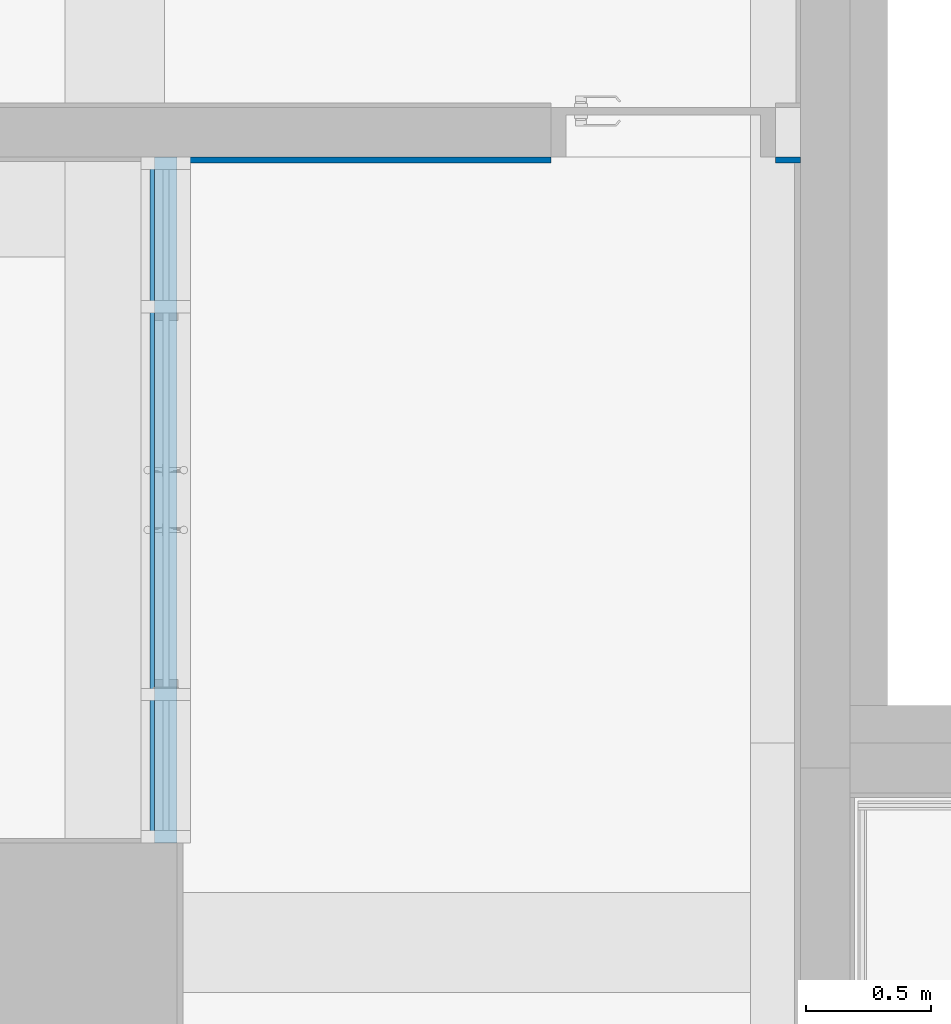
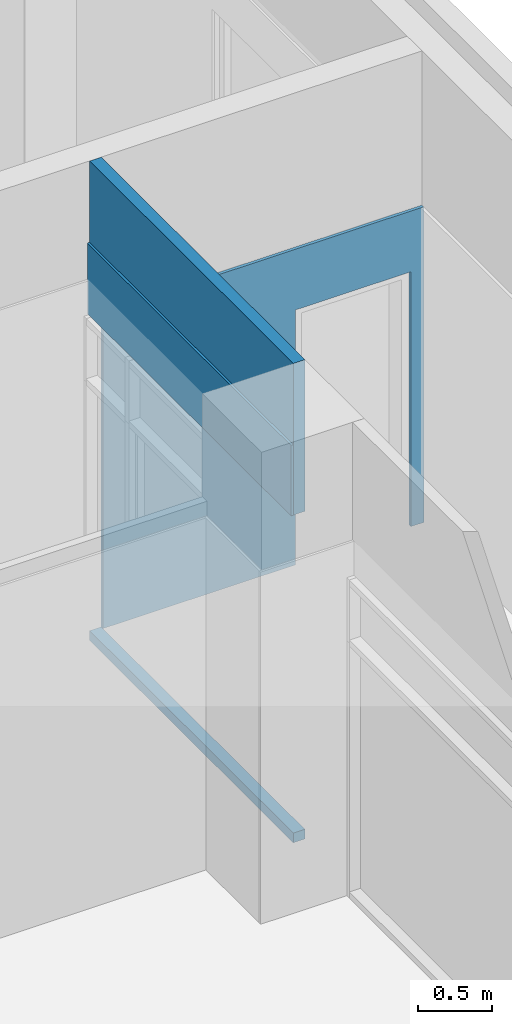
# One storey, part 48 of 76: 3 walls, 5 openings.
"""IFC2X3 building model written with IfcOpenShell, lengths in millimetres."""

from ifc_helpers import new_model, entity, si_unit, converted_unit, derived_unit, direction, frame, frame_2d, origin, place, context, subcontext, project, spatial, polyline, rectangle, extrude, clip, bounded_halfspace, material, layer, layer_set, layer_usage, type_object, element, save


model = new_model("IFC2X3")

# Units and contexts
model_context = context("Model", 3, precision=0.01, world=origin(), true_north=direction((6.123031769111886e-17, 1.0)))
body_context = subcontext(model_context, "Body", "Model", "MODEL_VIEW")
ifc_project = project(units=[si_unit("LENGTHUNIT", "METRE", prefix="MILLI"), si_unit("AREAUNIT", "SQUARE_METRE"), si_unit("VOLUMEUNIT", "CUBIC_METRE"), converted_unit("PLANEANGLEUNIT", "DEGREE", entity("IfcRatioMeasure", 0.017453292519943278), si_unit("PLANEANGLEUNIT", "RADIAN"), dimensions=[0, 0, 0, 0, 0, 0, 0]), si_unit("MASSUNIT", "GRAM", prefix="KILO"), derived_unit("MASSDENSITYUNIT", [(si_unit("MASSUNIT", "GRAM", prefix="KILO"), 1), (si_unit("LENGTHUNIT", "METRE"), -3)]), derived_unit("MOMENTOFINERTIAUNIT", [(si_unit("LENGTHUNIT", "METRE"), 4)]), si_unit("TIMEUNIT", "SECOND"), si_unit("FREQUENCYUNIT", "HERTZ"), si_unit("THERMODYNAMICTEMPERATUREUNIT", "DEGREE_CELSIUS"), derived_unit("THERMALTRANSMITTANCEUNIT", [(si_unit("MASSUNIT", "GRAM", prefix="KILO"), 1), (si_unit("THERMODYNAMICTEMPERATUREUNIT", "KELVIN"), -1), (si_unit("TIMEUNIT", "SECOND"), -3)]), derived_unit("VOLUMETRICFLOWRATEUNIT", [(si_unit("LENGTHUNIT", "METRE"), 3), (si_unit("TIMEUNIT", "SECOND"), -1)]), derived_unit("MASSFLOWRATEUNIT", [(si_unit("MASSUNIT", "GRAM", prefix="KILO"), 1), (si_unit("TIMEUNIT", "SECOND"), -1)]), derived_unit("ROTATIONALFREQUENCYUNIT", [(si_unit("TIMEUNIT", "SECOND"), -1)]), si_unit("ELECTRICCURRENTUNIT", "AMPERE"), si_unit("ELECTRICVOLTAGEUNIT", "VOLT"), si_unit("POWERUNIT", "WATT"), si_unit("FORCEUNIT", "NEWTON", prefix="KILO"), si_unit("ILLUMINANCEUNIT", "LUX"), si_unit("LUMINOUSFLUXUNIT", "LUMEN"), si_unit("LUMINOUSINTENSITYUNIT", "CANDELA"), derived_unit("USERDEFINED", [(si_unit("MASSUNIT", "GRAM", prefix="KILO"), -1), (si_unit("LENGTHUNIT", "METRE"), -2), (si_unit("TIMEUNIT", "SECOND"), 3), (si_unit("LUMINOUSFLUXUNIT", "LUMEN"), 1)]), derived_unit("SOUNDPOWERUNIT", [(si_unit("MASSUNIT", "GRAM", prefix="KILO"), 1), (si_unit("LENGTHUNIT", "METRE"), 2), (si_unit("TIMEUNIT", "SECOND"), -3)]), derived_unit("SOUNDPRESSUREUNIT", [(si_unit("MASSUNIT", "GRAM", prefix="KILO"), 1), (si_unit("LENGTHUNIT", "METRE"), -1), (si_unit("TIMEUNIT", "SECOND"), -2)]), derived_unit("LINEARVELOCITYUNIT", [(si_unit("LENGTHUNIT", "METRE"), 1), (si_unit("TIMEUNIT", "SECOND"), -1)]), si_unit("PRESSUREUNIT", "PASCAL"), derived_unit("USERDEFINED", [(si_unit("LENGTHUNIT", "METRE"), -2), (si_unit("MASSUNIT", "GRAM", prefix="KILO"), 1), (si_unit("TIMEUNIT", "SECOND"), -2)]), derived_unit("LINEARFORCEUNIT", [(si_unit("MASSUNIT", "GRAM", prefix="KILO"), 1), (si_unit("LENGTHUNIT", "METRE"), 1), (si_unit("TIMEUNIT", "SECOND"), -2), (si_unit("LENGTHUNIT", "METRE"), -1)]), derived_unit("PLANARFORCEUNIT", [(si_unit("MASSUNIT", "GRAM", prefix="KILO"), 1), (si_unit("LENGTHUNIT", "METRE"), 1), (si_unit("TIMEUNIT", "SECOND"), -2), (si_unit("LENGTHUNIT", "METRE"), -2)])], contexts=[model_context])

# Site, building, storey
site_placement = place(None, frame((-14167.972527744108, -657.2125860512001, 0.0)))
site = spatial("IfcSite", under=ifc_project, at=site_placement, Name="Default", CompositionType="ELEMENT")
building_placement = place(site_placement, origin())
building = spatial("IfcBuilding", under=site, at=building_placement, Name="Sample Building", CompositionType="ELEMENT")
storey_placement = place(building_placement, frame((0.0, 0.0, 9300.0)))
storey = spatial("IfcBuildingStorey", under=building, at=storey_placement, Name="지상 3층", CompositionType="ELEMENT", Elevation=9300.000000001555)

# Wall, openings
ifc_material_1 = material(Name="KBIMS-시멘트 벽돌")
ifc_layer_1 = layer(ifc_material_1, 90.0)
ifc_layer_set_1 = layer_set([ifc_layer_1], Name="기본 벽:WA211-시멘트벽돌(일반) 벽 (0.5B) 90mm")
ifc_layer_usage_1 = layer_usage(ifc_layer_set_1, "AXIS2", "NEGATIVE", 45.0)
wall_type_1 = type_object("IfcWallType", Name="기본 벽:WA211-시멘트벽돌(일반) 벽 (0.5B) 90mm", PredefinedType="STANDARD", material=ifc_layer_set_1)
wall_1_placement = place(storey_placement, frame((27522.955105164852, 30507.21227524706, 0.0), z_axis=(0.0, 0.0, 1.0), x_axis=(0.0, -1.0, 0.0)))
wall_1 = element("IfcWallStandardCase", 1, at=wall_1_placement, inside=storey, type_object=wall_type_1, material=ifc_layer_usage_1, Name="기본 벽:WA211-시멘트벽돌(일반) 벽 (0.5B) 90mm", ObjectType="기본 벽:WA211-시멘트벽돌(일반) 벽 (0.5B) 90mm", context=body_context, shape_type="Clipping", body=[
    clip(extrude(rectangle(XDim=2749.9999672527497, YDim=90.0000000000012, at=frame_2d((1374.9999836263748, -2.277289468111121e-12), x_axis=(-1.0, 0.0))), origin(), (0.0, 0.0, 1.0), 3950.000000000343), bounded_halfspace(frame((0.0, -45.0, 3950.0), z_axis=(0.0, 0.0, -1.0), x_axis=(0.0, 1.0, 0.0)), True, frame((0.0, -45.0, 3950.0), z_axis=(0.0, 0.0, -1.0), x_axis=(0.0, 1.0, 0.0)), polyline([(0.0, 0.0), (27432.0, -1.2792593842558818e-09), (27432.0, 838199.9900186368), (-1.321097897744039e-09, 838199.9900186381), (0.0, 0.0)]))),
])
opening_1_placement = place(wall_1_placement, origin())
element("IfcOpeningElement", 2, at=opening_1_placement, cuts=wall_1, Name="기본 벽:WA211-시멘트벽돌(일반) 벽 (0.5B) 90mm", ObjectType="Opening", context=body_context, shape_type="SweptSolid", body=[
    extrude(rectangle(XDim=2620.0000000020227, YDim=2749.9999672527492, at=frame_2d((-1.1368683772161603e-12, -2.1600499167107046e-12), x_axis=(1.0, 0.0))), frame((1374.999983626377, -197.40000000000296, 1390.0), z_axis=(0.0, 1.0, 0.0), x_axis=(0.0, 0.0, 1.0)), (0.0, 0.0, 1.0), 394.8000000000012),
])
opening_2_placement = place(wall_1_placement, origin())
element("IfcOpeningElement", 3, at=opening_2_placement, cuts=wall_1, Name="기본 벽:WA211-시멘트벽돌(일반) 벽 (0.5B) 90mm", ObjectType="Opening", context=body_context, shape_type="SweptSolid", body=[
    extrude(rectangle(XDim=2620.0000000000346, YDim=6500.034992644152, at=frame_2d((1.1368683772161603e-12, 0.0), x_axis=(1.0, 0.0))), frame((14200.017154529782, -197.40000000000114, 1390.0), z_axis=(0.0, 1.0, 0.0), x_axis=(0.0, 0.0, 1.0)), (0.0, 0.0, 1.0), 394.8000000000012),
])
opening_3_placement = place(wall_1_placement, origin())
element("IfcOpeningElement", 4, at=opening_3_placement, cuts=wall_1, Name="기본 벽:WA211-시멘트벽돌(일반) 벽 (0.5B) 90mm", ObjectType="Opening", context=body_context, shape_type="SweptSolid", body=[
    extrude(rectangle(XDim=2620.000000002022, YDim=6599.999999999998, at=frame_2d((-5.684341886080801e-13, 0.0), x_axis=(1.0, 0.0))), frame((6849.999967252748, -197.39999999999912, 1390.0), z_axis=(0.0, 1.0, 0.0), x_axis=(0.0, 0.0, 1.0)), (0.0, 0.0, 1.0), 394.8000000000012),
])

# Wall, opening
ifc_material_2 = material(Name="WA611-수성페인트 (내부) 벽 (3회)")
ifc_layer_2 = layer(ifc_material_2, 1.0)
ifc_material_3 = material(Name="WA551-시멘트모르타르 (내부) 벽 18mm")
ifc_layer_3 = layer(ifc_material_3, 16.0)
ifc_material_4 = material(Name="WA555-콘크리트면정리 벽 (내부)")
ifc_layer_4 = layer(ifc_material_4, 1.0)
ifc_layer_set_2 = layer_set([ifc_layer_2, ifc_layer_3, ifc_layer_4], Name="기본 벽:A1-32-06A-콘크리트면정리, 시멘트모르타르(미장용), 수성페인트(내부) (18mm)")
ifc_layer_usage_2 = layer_usage(ifc_layer_set_2, "AXIS2", "NEGATIVE", 9.000000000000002)
wall_type_2 = type_object("IfcWallType", Name="기본 벽:A1-32-06A-콘크리트면정리, 시멘트모르타르(미장용), 수성페인트(내부) (18mm)", PredefinedType="STANDARD", material=ifc_layer_set_2)
wall_2_placement = place(storey_placement, frame((27468.95510516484, 27757.212307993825, 2700.0), z_axis=(0.0, 0.0, 1.0), x_axis=(0.0, 1.0, 0.0)))
wall_2 = element("IfcWallStandardCase", 5, at=wall_2_placement, inside=storey, type_object=wall_type_2, material=ifc_layer_usage_2, Name="기본 벽:A1-32-06A-콘크리트면정리, 시멘트모르타르(미장용), 수성페인트(내부) (18mm)", ObjectType="기본 벽:A1-32-06A-콘크리트면정리, 시멘트모르타르(미장용), 수성페인트(내부) (18mm)", context=body_context, shape_type="SweptSolid", body=[
    extrude(rectangle(XDim=2749.9999672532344, YDim=18.00000000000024, at=frame_2d((1374.9999836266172, -1.3837819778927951e-12), x_axis=(1.0, 0.0))), origin(), (0.0, 0.0, 1.0), 579.9999999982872),
])
opening_4_placement = place(wall_2_placement, origin())
element("IfcOpeningElement", 6, at=opening_4_placement, cuts=wall_2, Name="기본 벽:A1-32-06A-콘크리트면정리, 시멘트모르타르(미장용), 수성페인트(내부) (18mm)", ObjectType="Opening", context=body_context, shape_type="SweptSolid", body=[
    extrude(rectangle(XDim=2620.0000000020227, YDim=2749.9999672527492, at=frame_2d((2.1600499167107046e-12, -1.1368683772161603e-12), x_axis=(0.0, 1.0))), frame((1374.999983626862, -161.40000000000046, -1310.0), z_axis=(0.0, 1.0, 0.0), x_axis=(-1.0, 0.0, 0.0)), (0.0, 0.0, 1.0), 322.80000000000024),
])

ifc_layer_5 = layer(ifc_material_2, 1.0)
ifc_material_5 = material(Name="WA551-시멘트모르타르 (내부) 벽 24mm")
ifc_layer_6 = layer(ifc_material_5, 21.0)
ifc_material_6 = material(Name="WA961-바닥방수 연장")
ifc_layer_7 = layer(ifc_material_6, 1.0)
ifc_layer_8 = layer(ifc_material_4, 1.0)
ifc_layer_set_3 = layer_set([ifc_layer_5, ifc_layer_6, ifc_layer_7, ifc_layer_8], Name="기본 벽:A1-32-07A-콘크리트면정리, 바닥방수연장, 시멘트모르타르(미장용), 수성페인트(내부) (24mm)")
ifc_layer_usage_3 = layer_usage(ifc_layer_set_3, "AXIS2", "NEGATIVE", 12.000000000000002)
wall_type_3 = type_object("IfcWallType", Name="기본 벽:A1-32-07A-콘크리트면정리, 바닥방수연장, 시멘트모르타르(미장용), 수성페인트(내부) (24mm)", PredefinedType="STANDARD", material=ifc_layer_set_3)
wall_3_placement = place(storey_placement, frame((30067.96376153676, 30495.212275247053, 80.0), z_axis=(0.0, 0.0, 1.0), x_axis=(-1.0, 0.0, 0.0)))
wall_3 = element("IfcWallStandardCase", 7, at=wall_3_placement, inside=storey, type_object=wall_type_3, material=ifc_layer_usage_3, Name="기본 벽:A1-32-07A-콘크리트면정리, 바닥방수연장, 시멘트모르타르(미장용), 수성페인트(내부) (24mm)", ObjectType="기본 벽:A1-32-07A-콘크리트면정리, 바닥방수연장, 시멘트모르타르(미장용), 수성페인트(내부) (24mm)", context=body_context, shape_type="SweptSolid", body=[
    extrude(rectangle(XDim=2500.0086563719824, YDim=23.999999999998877, at=frame_2d((1250.0043281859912, 2.157385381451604e-12), x_axis=(1.0, 0.0))), origin(), (0.0, 0.0, 1.0), 2600.0000000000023),
])
opening_5_placement = place(wall_3_placement, origin())
element("IfcOpeningElement", 8, at=opening_5_placement, cuts=wall_3, Name="기본 벽:A1-32-07A-콘크리트면정리, 바닥방수연장, 시멘트모르타르(미장용), 수성페인트(내부) (24mm)", ObjectType="Opening", context=body_context, shape_type="SweptSolid", body=[
    extrude(rectangle(XDim=2099.9999999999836, YDim=899.999999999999, at=frame_2d((-1.0231815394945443e-12, -2.1600499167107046e-12), x_axis=(1.0, 0.0))), frame((550.0, -1536.0, 1050.0), z_axis=(0.0, 1.0, 0.0), x_axis=(0.0, 0.0, 1.0)), (0.0, 0.0, 1.0), 3048.0),
])

save(model, "model.ifc")
